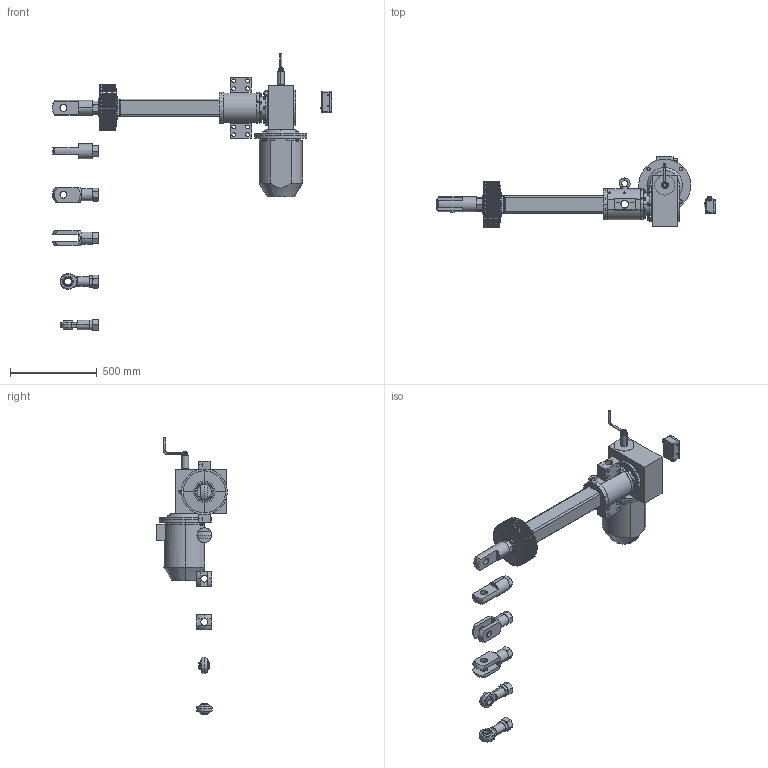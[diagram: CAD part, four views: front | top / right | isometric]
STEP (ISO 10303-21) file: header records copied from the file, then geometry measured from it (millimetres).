
FILE_DESCRIPTION (( 'STEP AP203' ), '1' );
FILE_NAME ('Ì4 6 400.STEP', '2016-12-22T08:28:24', ( '' ), ( '' ), 'SwSTEP 2.0', 'SolidWorks 2012', '' );
FILE_SCHEMA (( 'CONFIG_CONTROL_DESIGN' ));
Products named in the file (9): ﾌ4 6 400; Ãîôð Ñ4_•®¤600; 迕 6; 苂 6; 迍 6; ﾁﾑﾏ; Ñ4 6 ïåðåä áàçà; ﾒ矜 6_400; ﾌ4 6 矜鈞
Assembly tree (11 placements, depth 2):
  ﾌ4 6 400
    ﾌ4 6 矜鈞
    ﾒ矜 6_400
    Ñ4 6 ïåðåä áàçà
    ﾁﾑﾏ
    迍 6  x2
    苂 6  x2
    迕 6  x2
    Ãîôð Ñ4_•®¤600
Bounding box: 1608 x 406 x 1596 mm (x, y, z)
Volume: 858258.6 mm3; surface area: 5922619.9 mm2
Topology: 1 solids, 211 shells, 1899 faces, 5158 edges, 3490 vertices
Faces by surface type: plane 756, cylinder 603, cone 404, sphere 64, torus 60, bspline 12
Entity records: 60711 total; most frequent: CARTESIAN_POINT 14523, DIRECTION 10102, ORIENTED_EDGE 8162, EDGE_CURVE 4800, AXIS2_PLACEMENT_3D 4049, VERTEX_POINT 3272, CIRCLE 2253, EDGE_LOOP 2120
